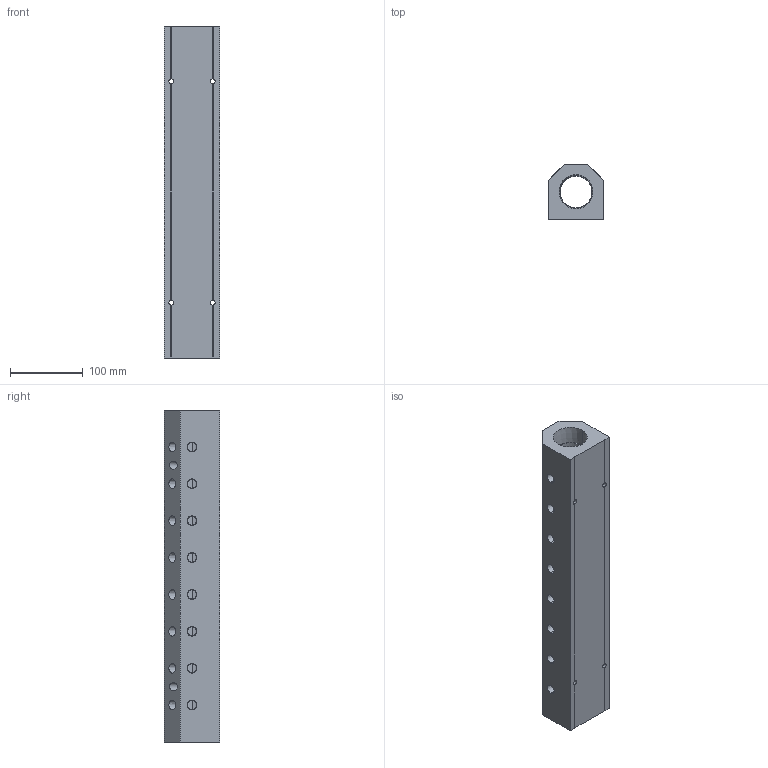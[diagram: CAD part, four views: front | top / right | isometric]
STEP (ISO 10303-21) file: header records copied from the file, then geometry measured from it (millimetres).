
FILE_DESCRIPTION (( 'STEP AP214' ), '1' );
FILE_NAME ('ALM8AB-N4N24-457R.step', '2022-02-07T07:39:51', ( '' ), ( '' ), 'SwSTEP 2.0', 'SolidWorks 2020', '' );
FILE_SCHEMA (( 'AUTOMOTIVE_DESIGN' ));
Length unit declared in the file: millimetre
Products named in the file (1): ALM8AB-N4N24-457R
Bounding box: 76.2 x 76.2 x 457 mm (x, y, z)
Volume: 1670192.3 mm3; surface area: 210376.3 mm2
Topology: 1 solids, 1 shells, 337 faces, 900 edges, 592 vertices
Faces by surface type: plane 233, bspline 50, cone 36, cylinder 18
Entity records: 18138 total; most frequent: CARTESIAN_POINT 6856, ORIENTED_EDGE 1800, DIRECTION 1396, EDGE_CURVE 900, VECTOR 684, LINE 684, VERTEX_POINT 592, EDGE_LOOP 406
